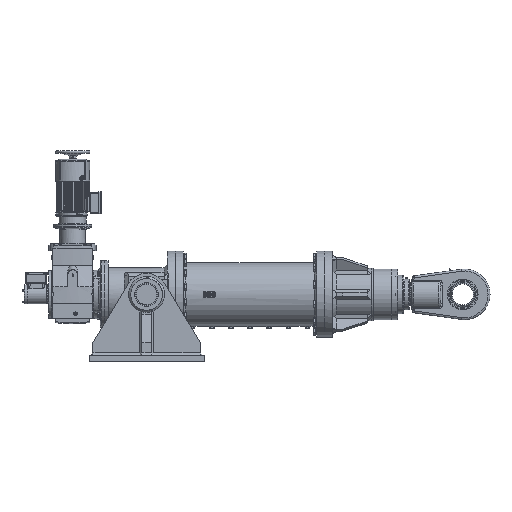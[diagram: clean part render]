
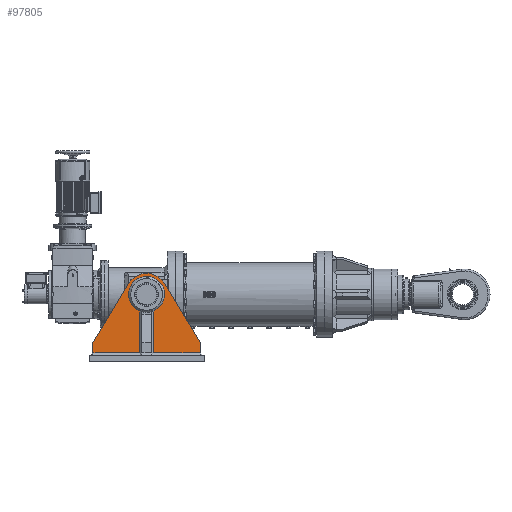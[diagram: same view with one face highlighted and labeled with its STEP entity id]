
A CAD part, left-side view. The second image highlights one B-rep face of the part: STEP entity #97805.
In plain terms, the highlighted planar face has unit normal (-1, 0, 0) as drawn and (0, -1, 0) by its records, which use the part's own axes.
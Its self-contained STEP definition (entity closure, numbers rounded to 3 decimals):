
#3428=CIRCLE('',#103315,110.);
#3432=CIRCLE('',#103329,93.814);
#13336=ORIENTED_EDGE('',*,*,#29906,.F.);
#13337=ORIENTED_EDGE('',*,*,#29795,.F.);
#13338=ORIENTED_EDGE('',*,*,#29905,.F.);
#13339=ORIENTED_EDGE('',*,*,#29889,.F.);
#13340=ORIENTED_EDGE('',*,*,#29821,.F.);
#13341=ORIENTED_EDGE('',*,*,#29904,.F.);
#13342=ORIENTED_EDGE('',*,*,#29793,.F.);
#13343=ORIENTED_EDGE('',*,*,#29909,.F.);
#13344=ORIENTED_EDGE('',*,*,#29863,.F.);
#13345=ORIENTED_EDGE('',*,*,#29870,.F.);
#13346=ORIENTED_EDGE('',*,*,#29867,.F.);
#29793=EDGE_CURVE('',#38749,#38761,#45083,.F.);
#29795=EDGE_CURVE('',#38762,#38752,#45085,.F.);
#29821=EDGE_CURVE('',#38781,#38782,#45098,.F.);
#29863=EDGE_CURVE('',#38819,#38820,#45109,.T.);
#29867=EDGE_CURVE('',#38823,#38824,#45113,.T.);
#29870=EDGE_CURVE('',#38824,#38819,#3428,.T.);
#29889=EDGE_CURVE('',#38782,#38832,#3432,.F.);
#29904=EDGE_CURVE('',#38761,#38781,#45140,.T.);
#29905=EDGE_CURVE('',#38832,#38762,#45141,.F.);
#29906=EDGE_CURVE('',#38752,#38823,#45142,.T.);
#29909=EDGE_CURVE('',#38820,#38749,#45145,.T.);
#38749=VERTEX_POINT('',#141011);
#38752=VERTEX_POINT('',#141078);
#38761=VERTEX_POINT('',#141145);
#38762=VERTEX_POINT('',#141149);
#38781=VERTEX_POINT('',#141341);
#38782=VERTEX_POINT('',#141343);
#38819=VERTEX_POINT('',#141613);
#38820=VERTEX_POINT('',#141615);
#38823=VERTEX_POINT('',#141622);
#38824=VERTEX_POINT('',#141624);
#38832=VERTEX_POINT('',#141683);
#45083=LINE('',#141146,#50828);
#45085=LINE('',#141150,#50830);
#45098=LINE('',#141342,#50843);
#45109=LINE('',#141614,#50854);
#45113=LINE('',#141623,#50858);
#45140=LINE('',#141713,#50885);
#45141=LINE('',#141715,#50886);
#45142=LINE('',#141717,#50887);
#45145=LINE('',#141721,#50890);
#50828=VECTOR('',#115034,1000.);
#50830=VECTOR('',#115038,1000.);
#50843=VECTOR('',#115061,1000.);
#50854=VECTOR('',#115112,1000.);
#50858=VECTOR('',#115118,1000.);
#50885=VECTOR('',#115203,1000.);
#50886=VECTOR('',#115206,1000.);
#50887=VECTOR('',#115209,1000.);
#50890=VECTOR('',#115214,1000.);
#56709=EDGE_LOOP('',(#13336,#13337,#13338,#13339,#13340,#13341,#13342,#13343,
#13344,#13345,#13346));
#62223=FACE_BOUND('',#56709,.T.);
#66753=PLANE('',#103346);
#97805=ADVANCED_FACE('',(#62223),#66753,.F.);
#103315=AXIS2_PLACEMENT_3D('',#141628,#115124,#115125);
#103329=AXIS2_PLACEMENT_3D('',#141682,#115164,#115165);
#103346=AXIS2_PLACEMENT_3D('',#141723,#115217,#115218);
#115034=DIRECTION('',(1.,0.,0.));
#115038=DIRECTION('',(1.,0.,0.));
#115061=DIRECTION('',(-0.544,0.,-0.839));
#115112=DIRECTION('',(0.516,0.,-0.857));
#115118=DIRECTION('',(0.516,0.,0.857));
#115124=DIRECTION('',(0.,1.,0.));
#115125=DIRECTION('',(-1.,0.,0.));
#115164=DIRECTION('',(0.,1.,0.));
#115165=DIRECTION('',(0.,0.,-1.));
#115203=DIRECTION('',(0.,0.,1.));
#115206=DIRECTION('',(0.,0.,1.));
#115209=DIRECTION('',(0.,0.,1.));
#115214=DIRECTION('',(0.,0.,-1.));
#115217=DIRECTION('',(0.,1.,0.));
#115218=DIRECTION('',(0.,0.,-1.));
#141011=CARTESIAN_POINT('',(279.998,-602.498,11.314));
#141078=CARTESIAN_POINT('',(-279.999,-602.499,11.312));
#141145=CARTESIAN_POINT('',(36.314,-602.5,11.314));
#141146=CARTESIAN_POINT('',(0.,-602.5,11.314));
#141149=CARTESIAN_POINT('',(-36.314,-602.5,11.314));
#141150=CARTESIAN_POINT('',(0.,-602.5,11.314));
#141341=CARTESIAN_POINT('',(36.314,-602.5,224.925));
#141342=CARTESIAN_POINT('',(67.595,-602.5,273.196));
#141343=CARTESIAN_POINT('',(41.44,-602.5,232.835));
#141613=CARTESIAN_POINT('',(94.254,-602.5,373.711));
#141614=CARTESIAN_POINT('',(94.254,-602.5,373.711));
#141615=CARTESIAN_POINT('',(280.,-602.5,65.));
#141622=CARTESIAN_POINT('',(-280.,-602.5,65.));
#141623=CARTESIAN_POINT('',(-94.254,-602.5,373.711));
#141624=CARTESIAN_POINT('',(-94.254,-602.5,373.711));
#141628=CARTESIAN_POINT('',(0.,-602.5,317.));
#141682=CARTESIAN_POINT('',(0.,-602.5,317.));
#141683=CARTESIAN_POINT('',(-36.314,-602.5,230.5));
#141713=CARTESIAN_POINT('',(36.314,-602.5,317.));
#141715=CARTESIAN_POINT('',(-36.314,-602.5,317.));
#141717=CARTESIAN_POINT('',(-280.,-602.5,0.));
#141721=CARTESIAN_POINT('',(280.,-602.5,0.));
#141723=CARTESIAN_POINT('',(0.,-602.5,317.));
